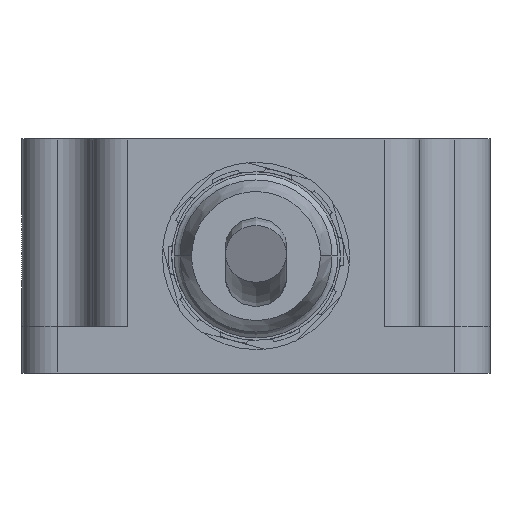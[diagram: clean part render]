
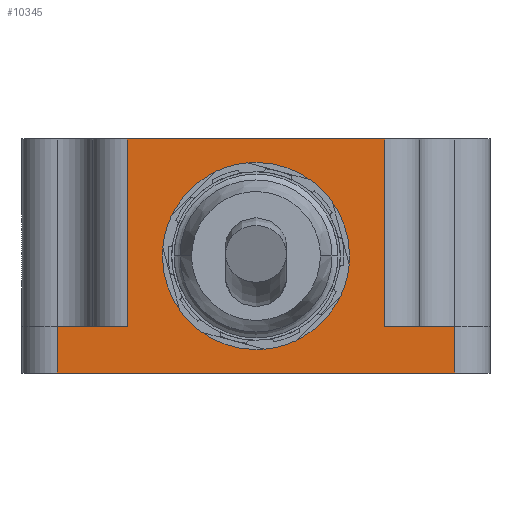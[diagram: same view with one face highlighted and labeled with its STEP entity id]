
A CAD part, left-side view. The second image highlights one B-rep face of the part: STEP entity #10345.
In plain terms, the highlighted planar face has unit normal (-1, 0, 0).
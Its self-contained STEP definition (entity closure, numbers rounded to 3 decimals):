
#111 = CIRCLE ( 'NONE', #6281, 8. ) ;
#652 = DIRECTION ( 'NONE',  ( 0., 1., 0. ) ) ;
#813 = VECTOR ( 'NONE', #5338, 1000. ) ;
#1613 = EDGE_CURVE ( 'NONE', #14684, #10324, #13180, .T. ) ;
#1711 = LINE ( 'NONE', #6888, #13194 ) ;
#1772 = CARTESIAN_POINT ( 'NONE',  ( -25.463, 1.266, 45. ) ) ;
#2203 = CARTESIAN_POINT ( 'NONE',  ( -25.463, 18.266, 39. ) ) ;
#3154 = VECTOR ( 'NONE', #17251, 1000. ) ;
#3262 = DIRECTION ( 'NONE',  ( 0., 1., 0. ) ) ;
#3716 = VERTEX_POINT ( 'NONE', #15553 ) ;
#3991 = EDGE_CURVE ( 'NONE', #9740, #3716, #111, .T. ) ;
#4217 = EDGE_CURVE ( 'NONE', #17112, #10403, #5052, .T. ) ;
#4564 = CARTESIAN_POINT ( 'NONE',  ( -25.463, 18.266, 39. ) ) ;
#4591 = ORIENTED_EDGE ( 'NONE', *, *, #15209, .F. ) ;
#4779 = EDGE_CURVE ( 'NONE', #10403, #14684, #9579, .T. ) ;
#4956 = DIRECTION ( 'NONE',  ( 0., -1., 0. ) ) ;
#5052 = LINE ( 'NONE', #8164, #813 ) ;
#5338 = DIRECTION ( 'NONE',  ( 0., 1., 0. ) ) ;
#5352 = ORIENTED_EDGE ( 'NONE', *, *, #3991, .F. ) ;
#6281 = AXIS2_PLACEMENT_3D ( 'NONE', #1772, #15399, #4956 ) ;
#6334 = EDGE_CURVE ( 'NONE', #8250, #15255, #1711, .T. ) ;
#6617 = LINE ( 'NONE', #12257, #10350 ) ;
#6818 = ORIENTED_EDGE ( 'NONE', *, *, #7670, .F. ) ;
#6888 = CARTESIAN_POINT ( 'NONE',  ( -25.463, 1.266, 35. ) ) ;
#7044 = CARTESIAN_POINT ( 'NONE',  ( -25.463, -9.734, 39. ) ) ;
#7180 = LINE ( 'NONE', #2203, #3154 ) ;
#7293 = ORIENTED_EDGE ( 'NONE', *, *, #4217, .T. ) ;
#7662 = DIRECTION ( 'NONE',  ( -1., 0., 0. ) ) ;
#7670 = EDGE_CURVE ( 'NONE', #3716, #9740, #16079, .T. ) ;
#8004 = CARTESIAN_POINT ( 'NONE',  ( -25.463, 1.266, 45. ) ) ;
#8042 = CARTESIAN_POINT ( 'NONE',  ( -25.463, -15.734, 39. ) ) ;
#8124 = DIRECTION ( 'NONE',  ( 0., -1., 0. ) ) ;
#8164 = CARTESIAN_POINT ( 'NONE',  ( -25.463, 1.266, 55. ) ) ;
#8250 = VERTEX_POINT ( 'NONE', #14749 ) ;
#8369 = CARTESIAN_POINT ( 'NONE',  ( -25.463, 12.266, 39. ) ) ;
#8753 = ORIENTED_EDGE ( 'NONE', *, *, #13086, .T. ) ;
#8795 = DIRECTION ( 'NONE',  ( 0., 0., -1. ) ) ;
#9579 = LINE ( 'NONE', #12965, #12133 ) ;
#9740 = VERTEX_POINT ( 'NONE', #10568 ) ;
#9778 = VECTOR ( 'NONE', #11043, 1000. ) ;
#9816 = EDGE_CURVE ( 'NONE', #13441, #8250, #12108, .T. ) ;
#9929 = VERTEX_POINT ( 'NONE', #7044 ) ;
#9942 = DIRECTION ( 'NONE',  ( 0., 1., 0. ) ) ;
#10324 = VERTEX_POINT ( 'NONE', #4564 ) ;
#10345 = ADVANCED_FACE ( 'NONE', ( #14402, #15343 ), #16737, .T. ) ;
#10350 = VECTOR ( 'NONE', #3262, 1000. ) ;
#10403 = VERTEX_POINT ( 'NONE', #16597 ) ;
#10568 = CARTESIAN_POINT ( 'NONE',  ( -25.463, 9.266, 45. ) ) ;
#10802 = CARTESIAN_POINT ( 'NONE',  ( -25.463, 12.266, 39. ) ) ;
#11026 = CARTESIAN_POINT ( 'NONE',  ( -25.463, -9.734, 55. ) ) ;
#11043 = DIRECTION ( 'NONE',  ( 0., 0., -1. ) ) ;
#11893 = CARTESIAN_POINT ( 'NONE',  ( -25.463, -15.734, 39. ) ) ;
#12108 = LINE ( 'NONE', #8042, #9778 ) ;
#12133 = VECTOR ( 'NONE', #17457, 1000. ) ;
#12229 = DIRECTION ( 'NONE',  ( 0., -1., 0. ) ) ;
#12241 = EDGE_LOOP ( 'NONE', ( #6818, #5352 ) ) ;
#12257 = CARTESIAN_POINT ( 'NONE',  ( -25.463, -9.734, 39. ) ) ;
#12787 = ORIENTED_EDGE ( 'NONE', *, *, #6334, .F. ) ;
#12965 = CARTESIAN_POINT ( 'NONE',  ( -25.463, 12.266, 55. ) ) ;
#13086 = EDGE_CURVE ( 'NONE', #10324, #15255, #7180, .T. ) ;
#13180 = LINE ( 'NONE', #8369, #14130 ) ;
#13194 = VECTOR ( 'NONE', #652, 1000. ) ;
#13441 = VERTEX_POINT ( 'NONE', #11893 ) ;
#14130 = VECTOR ( 'NONE', #9942, 1000. ) ;
#14392 = EDGE_LOOP ( 'NONE', ( #12787, #18461, #18363, #4591, #7293, #19178, #15544, #8753 ) ) ;
#14402 = FACE_BOUND ( 'NONE', #12241, .T. ) ;
#14684 = VERTEX_POINT ( 'NONE', #10802 ) ;
#14749 = CARTESIAN_POINT ( 'NONE',  ( -25.463, -15.734, 35. ) ) ;
#14932 = CARTESIAN_POINT ( 'NONE',  ( -25.463, 18.266, 35. ) ) ;
#15209 = EDGE_CURVE ( 'NONE', #17112, #9929, #19099, .T. ) ;
#15255 = VERTEX_POINT ( 'NONE', #14932 ) ;
#15343 = FACE_OUTER_BOUND ( 'NONE', #14392, .T. ) ;
#15399 = DIRECTION ( 'NONE',  ( -1., 0., 0. ) ) ;
#15544 = ORIENTED_EDGE ( 'NONE', *, *, #1613, .T. ) ;
#15553 = CARTESIAN_POINT ( 'NONE',  ( -25.463, -6.734, 45. ) ) ;
#15754 = AXIS2_PLACEMENT_3D ( 'NONE', #8004, #17054, #8124 ) ;
#16079 = CIRCLE ( 'NONE', #15754, 8. ) ;
#16098 = VECTOR ( 'NONE', #8795, 1000. ) ;
#16597 = CARTESIAN_POINT ( 'NONE',  ( -25.463, 12.266, 55. ) ) ;
#16677 = AXIS2_PLACEMENT_3D ( 'NONE', #18290, #7662, #12229 ) ;
#16737 = PLANE ( 'NONE',  #16677 ) ;
#17054 = DIRECTION ( 'NONE',  ( -1., 0., 0. ) ) ;
#17112 = VERTEX_POINT ( 'NONE', #11026 ) ;
#17163 = EDGE_CURVE ( 'NONE', #13441, #9929, #6617, .T. ) ;
#17251 = DIRECTION ( 'NONE',  ( 0., 0., -1. ) ) ;
#17457 = DIRECTION ( 'NONE',  ( 0., 0., -1. ) ) ;
#18290 = CARTESIAN_POINT ( 'NONE',  ( -25.463, 1.266, 55. ) ) ;
#18363 = ORIENTED_EDGE ( 'NONE', *, *, #17163, .T. ) ;
#18461 = ORIENTED_EDGE ( 'NONE', *, *, #9816, .F. ) ;
#19099 = LINE ( 'NONE', #19335, #16098 ) ;
#19178 = ORIENTED_EDGE ( 'NONE', *, *, #4779, .T. ) ;
#19335 = CARTESIAN_POINT ( 'NONE',  ( -25.463, -9.734, 55. ) ) ;
